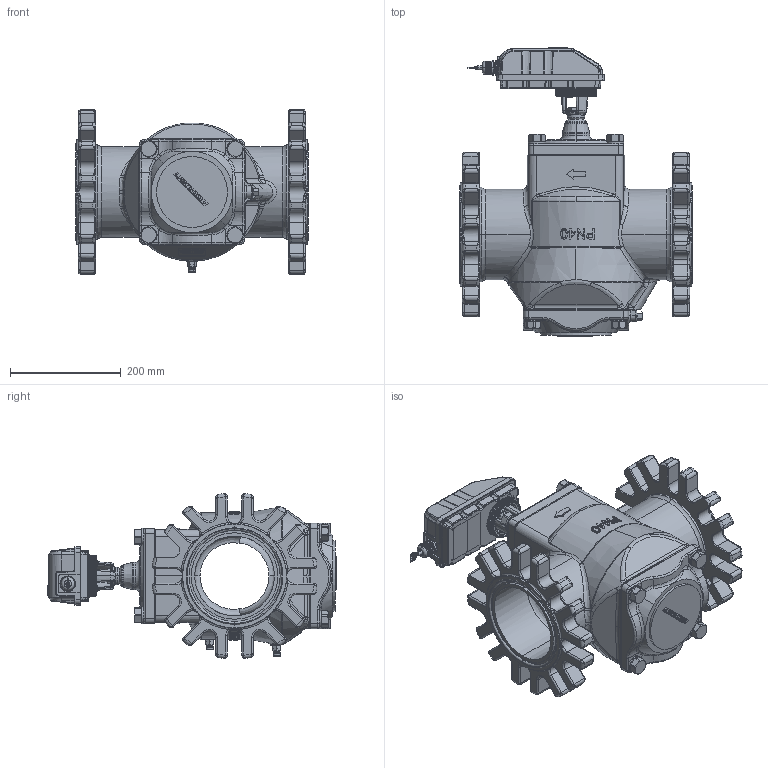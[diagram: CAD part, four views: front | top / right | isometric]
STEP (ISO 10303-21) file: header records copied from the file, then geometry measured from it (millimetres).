
FILE_DESCRIPTION (( 'STEP AP203' ), '1' );
FILE_NAME ('SM.5.1.B.3.0.0.0.STEP', '2025-09-25T07:02:20', ( '' ), ( '' ), 'SwSTEP 2.0', 'SolidWorks 2025', '' );
FILE_SCHEMA (( 'CONFIG_CONTROL_DESIGN' ));
Products named in the file (1): SM.5.1.B.3.0.0.0
Bounding box: 420.28 x 520.8 x 297.48 mm (x, y, z)
Surface area: 879600.7 mm2 (no closed solid volume)
Topology: 0 solids, 140 shells, 3469 faces, 11717 edges, 7898 vertices
Faces by surface type: cylinder 1084, bspline 876, plane 675, torus 491, cone 281, sphere 62
Entity records: 179739 total; most frequent: CARTESIAN_POINT 90671, ORIENTED_EDGE 18600, DIRECTION 16360, EDGE_CURVE 11455, VERTEX_POINT 7894, AXIS2_PLACEMENT_3D 6434, CIRCLE 3840, EDGE_LOOP 3721
